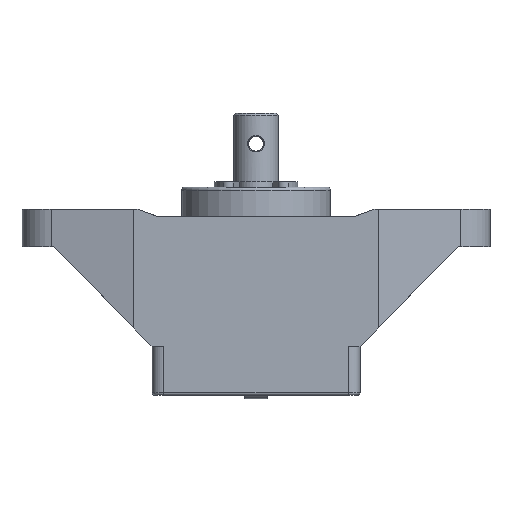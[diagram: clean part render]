
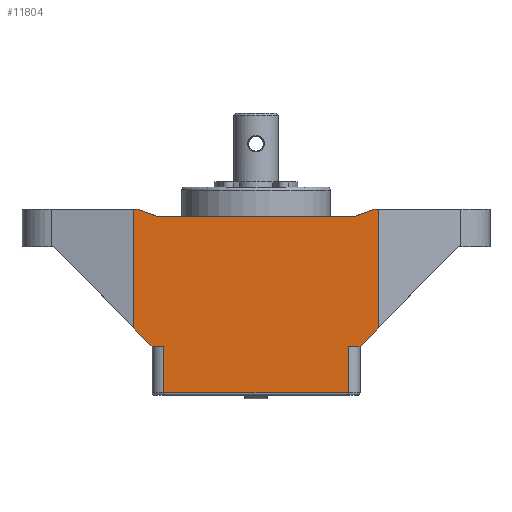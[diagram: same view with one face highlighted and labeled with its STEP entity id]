
A CAD part, front view. The second image highlights one B-rep face of the part: STEP entity #11804.
In plain terms, the highlighted planar face has unit normal (0, -1, 0).
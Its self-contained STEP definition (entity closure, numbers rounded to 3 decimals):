
#101 = CARTESIAN_POINT ( 'NONE',  ( 12.4, -13., -21.5 ) ) ;
#181 = ORIENTED_EDGE ( 'NONE', *, *, #9829, .F. ) ;
#301 = LINE ( 'NONE', #8686, #1437 ) ;
#366 = EDGE_CURVE ( 'NONE', #13477, #14089, #4146, .T. ) ;
#453 = VERTEX_POINT ( 'NONE', #541 ) ;
#541 = CARTESIAN_POINT ( 'NONE',  ( 15.883, -13., -3. ) ) ;
#551 = CARTESIAN_POINT ( 'NONE',  ( -14., -13., -28. ) ) ;
#641 = FACE_OUTER_BOUND ( 'NONE', #7093, .T. ) ;
#665 = CARTESIAN_POINT ( 'NONE',  ( -12.4, -13., -19.237 ) ) ;
#961 = VERTEX_POINT ( 'NONE', #7325 ) ;
#1294 = DIRECTION ( 'NONE',  ( -0.699, 0., -0.715 ) ) ;
#1381 = VECTOR ( 'NONE', #7845, 1000. ) ;
#1437 = VECTOR ( 'NONE', #9901, 1000. ) ;
#1615 = DIRECTION ( 'NONE',  ( 1., 0., 0. ) ) ;
#2255 = VERTEX_POINT ( 'NONE', #3557 ) ;
#2351 = CARTESIAN_POINT ( 'NONE',  ( 16.5, -13., -3. ) ) ;
#2408 = LINE ( 'NONE', #15400, #11710 ) ;
#2493 = EDGE_CURVE ( 'NONE', #14089, #12733, #15336, .T. ) ;
#2708 = LINE ( 'NONE', #5285, #17857 ) ;
#2922 = ORIENTED_EDGE ( 'NONE', *, *, #10285, .F. ) ;
#3124 = ORIENTED_EDGE ( 'NONE', *, *, #7720, .F. ) ;
#3275 = CARTESIAN_POINT ( 'NONE',  ( -14., -13., -3. ) ) ;
#3557 = CARTESIAN_POINT ( 'NONE',  ( 16.5, -13., -18.943 ) ) ;
#3609 = VECTOR ( 'NONE', #9922, 1000. ) ;
#3684 = VECTOR ( 'NONE', #6901, 1000. ) ;
#3700 = LINE ( 'NONE', #665, #1381 ) ;
#4012 = CARTESIAN_POINT ( 'NONE',  ( 12.4, -13., -19.237 ) ) ;
#4146 = LINE ( 'NONE', #9766, #5080 ) ;
#4447 = ORIENTED_EDGE ( 'NONE', *, *, #12591, .F. ) ;
#4547 = EDGE_CURVE ( 'NONE', #2255, #13477, #9679, .T. ) ;
#5080 = VECTOR ( 'NONE', #12985, 1000. ) ;
#5121 = CARTESIAN_POINT ( 'NONE',  ( -13.136, -13., -4. ) ) ;
#5170 = ORIENTED_EDGE ( 'NONE', *, *, #17742, .T. ) ;
#5285 = CARTESIAN_POINT ( 'NONE',  ( 14., -13., -3. ) ) ;
#5426 = LINE ( 'NONE', #6902, #15820 ) ;
#6020 = EDGE_CURVE ( 'NONE', #11938, #11107, #13997, .T. ) ;
#6230 = ORIENTED_EDGE ( 'NONE', *, *, #2493, .F. ) ;
#6606 = CARTESIAN_POINT ( 'NONE',  ( 13.136, -13., -4. ) ) ;
#6626 = DIRECTION ( 'NONE',  ( 0., 0., 1. ) ) ;
#6663 = CARTESIAN_POINT ( 'NONE',  ( 12.4, -13., -27.7 ) ) ;
#6708 = VECTOR ( 'NONE', #8824, 1000. ) ;
#6901 = DIRECTION ( 'NONE',  ( -0.699, 0., 0.715 ) ) ;
#6902 = CARTESIAN_POINT ( 'NONE',  ( 16.5, -13., -8. ) ) ;
#6991 = CARTESIAN_POINT ( 'NONE',  ( -14., -13., -21.5 ) ) ;
#7000 = VERTEX_POINT ( 'NONE', #11603 ) ;
#7089 = VERTEX_POINT ( 'NONE', #5121 ) ;
#7093 = EDGE_LOOP ( 'NONE', ( #10251, #9982, #6230, #13836, #15374, #5170, #17971, #181, #2922, #3124, #4447, #15843, #16061, #10416 ) ) ;
#7325 = CARTESIAN_POINT ( 'NONE',  ( -16.5, -13., -3. ) ) ;
#7382 = VECTOR ( 'NONE', #16810, 1000. ) ;
#7720 = EDGE_CURVE ( 'NONE', #10850, #7089, #9448, .T. ) ;
#7840 = EDGE_CURVE ( 'NONE', #11107, #961, #15069, .T. ) ;
#7845 = DIRECTION ( 'NONE',  ( 0., 0., -1. ) ) ;
#8331 = EDGE_CURVE ( 'NONE', #14300, #11938, #301, .T. ) ;
#8686 = CARTESIAN_POINT ( 'NONE',  ( -14., -13., -21.5 ) ) ;
#8824 = DIRECTION ( 'NONE',  ( 1., 0., 0. ) ) ;
#8931 = PLANE ( 'NONE',  #14773 ) ;
#9178 = CARTESIAN_POINT ( 'NONE',  ( -16.5, -13., -8. ) ) ;
#9390 = EDGE_CURVE ( 'NONE', #453, #17879, #2708, .T. ) ;
#9448 = LINE ( 'NONE', #11870, #14952 ) ;
#9654 = EDGE_CURVE ( 'NONE', #14300, #7000, #3700, .T. ) ;
#9679 = LINE ( 'NONE', #13919, #13727 ) ;
#9691 = CARTESIAN_POINT ( 'NONE',  ( -15.883, -13., -3. ) ) ;
#9766 = CARTESIAN_POINT ( 'NONE',  ( 14., -13., -21.5 ) ) ;
#9829 = EDGE_CURVE ( 'NONE', #13470, #453, #2408, .T. ) ;
#9901 = DIRECTION ( 'NONE',  ( -1., 0., 0. ) ) ;
#9922 = DIRECTION ( 'NONE',  ( 1., 0., 0. ) ) ;
#9982 = ORIENTED_EDGE ( 'NONE', *, *, #12464, .T. ) ;
#10251 = ORIENTED_EDGE ( 'NONE', *, *, #9654, .T. ) ;
#10284 = LINE ( 'NONE', #3275, #13599 ) ;
#10285 = EDGE_CURVE ( 'NONE', #7089, #13470, #12614, .T. ) ;
#10396 = CARTESIAN_POINT ( 'NONE',  ( -16.5, -13., -18.943 ) ) ;
#10416 = ORIENTED_EDGE ( 'NONE', *, *, #8331, .F. ) ;
#10850 = VERTEX_POINT ( 'NONE', #9691 ) ;
#11107 = VERTEX_POINT ( 'NONE', #10396 ) ;
#11447 = VECTOR ( 'NONE', #14887, 1000. ) ;
#11603 = CARTESIAN_POINT ( 'NONE',  ( -12.4, -13., -27.7 ) ) ;
#11612 = CARTESIAN_POINT ( 'NONE',  ( -8.9, -13., -4. ) ) ;
#11710 = VECTOR ( 'NONE', #16876, 1000. ) ;
#11804 = ADVANCED_FACE ( 'NONE', ( #641 ), #8931, .T. ) ;
#11870 = CARTESIAN_POINT ( 'NONE',  ( -15.883, -13., -3. ) ) ;
#11938 = VERTEX_POINT ( 'NONE', #13529 ) ;
#12464 = EDGE_CURVE ( 'NONE', #7000, #12733, #15445, .T. ) ;
#12591 = EDGE_CURVE ( 'NONE', #961, #10850, #10284, .T. ) ;
#12614 = LINE ( 'NONE', #11612, #6708 ) ;
#12733 = VERTEX_POINT ( 'NONE', #6663 ) ;
#12985 = DIRECTION ( 'NONE',  ( -1., 0., 0. ) ) ;
#13176 = DIRECTION ( 'NONE',  ( 0., 0., -1. ) ) ;
#13470 = VERTEX_POINT ( 'NONE', #6606 ) ;
#13477 = VERTEX_POINT ( 'NONE', #17750 ) ;
#13529 = CARTESIAN_POINT ( 'NONE',  ( -14., -13., -21.5 ) ) ;
#13599 = VECTOR ( 'NONE', #1615, 1000. ) ;
#13727 = VECTOR ( 'NONE', #1294, 1000. ) ;
#13836 = ORIENTED_EDGE ( 'NONE', *, *, #366, .F. ) ;
#13851 = DIRECTION ( 'NONE',  ( 1., 0., 0. ) ) ;
#13919 = CARTESIAN_POINT ( 'NONE',  ( 14., -13., -21.5 ) ) ;
#13997 = LINE ( 'NONE', #6991, #3684 ) ;
#14089 = VERTEX_POINT ( 'NONE', #101 ) ;
#14148 = CARTESIAN_POINT ( 'NONE',  ( 12.4, -13., -27.7 ) ) ;
#14300 = VERTEX_POINT ( 'NONE', #15941 ) ;
#14373 = DIRECTION ( 'NONE',  ( 0., -1., 0. ) ) ;
#14773 = AXIS2_PLACEMENT_3D ( 'NONE', #551, #14373, #13176 ) ;
#14887 = DIRECTION ( 'NONE',  ( 0., 0., 1. ) ) ;
#14952 = VECTOR ( 'NONE', #14973, 1000. ) ;
#14973 = DIRECTION ( 'NONE',  ( 0.94, 0., -0.342 ) ) ;
#15069 = LINE ( 'NONE', #9178, #11447 ) ;
#15336 = LINE ( 'NONE', #4012, #7382 ) ;
#15374 = ORIENTED_EDGE ( 'NONE', *, *, #4547, .F. ) ;
#15400 = CARTESIAN_POINT ( 'NONE',  ( 15.883, -13., -3. ) ) ;
#15445 = LINE ( 'NONE', #14148, #3609 ) ;
#15820 = VECTOR ( 'NONE', #6626, 1000. ) ;
#15843 = ORIENTED_EDGE ( 'NONE', *, *, #7840, .F. ) ;
#15941 = CARTESIAN_POINT ( 'NONE',  ( -12.4, -13., -21.5 ) ) ;
#16061 = ORIENTED_EDGE ( 'NONE', *, *, #6020, .F. ) ;
#16810 = DIRECTION ( 'NONE',  ( 0., 0., -1. ) ) ;
#16876 = DIRECTION ( 'NONE',  ( 0.94, 0., 0.342 ) ) ;
#17742 = EDGE_CURVE ( 'NONE', #2255, #17879, #5426, .T. ) ;
#17750 = CARTESIAN_POINT ( 'NONE',  ( 14., -13., -21.5 ) ) ;
#17857 = VECTOR ( 'NONE', #13851, 1000. ) ;
#17879 = VERTEX_POINT ( 'NONE', #2351 ) ;
#17971 = ORIENTED_EDGE ( 'NONE', *, *, #9390, .F. ) ;
